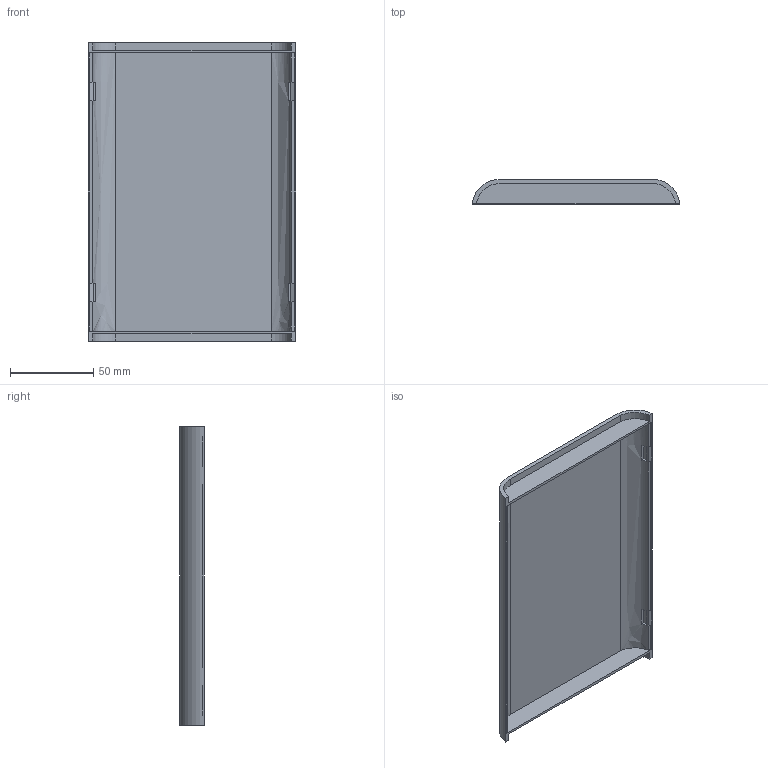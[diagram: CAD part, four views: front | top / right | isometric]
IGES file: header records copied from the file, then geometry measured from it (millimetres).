
Global section: file name: No Iges File Name specified; native system: Autodesk Inventor 2011; preprocessor: AutoDesk Inventor Iges Exporter R2011; author: tcook; date: 20101101.154728; units: inch
Bounding box: 124.84 x 14.73 x 179.58 mm (x, y, z)
Volume: 65529.8 mm3; surface area: 56401.4 mm2
Topology: 1 solids, 1 shells, 61 faces, 150 edges, 96 vertices
Faces by surface type: plane 33, bspline 18, revolution 8, cylinder 2
